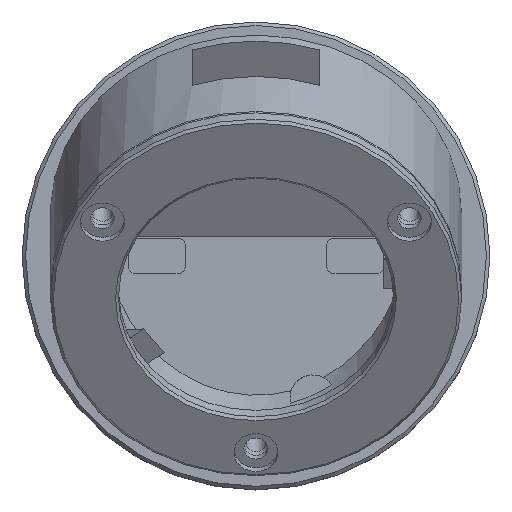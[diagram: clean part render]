
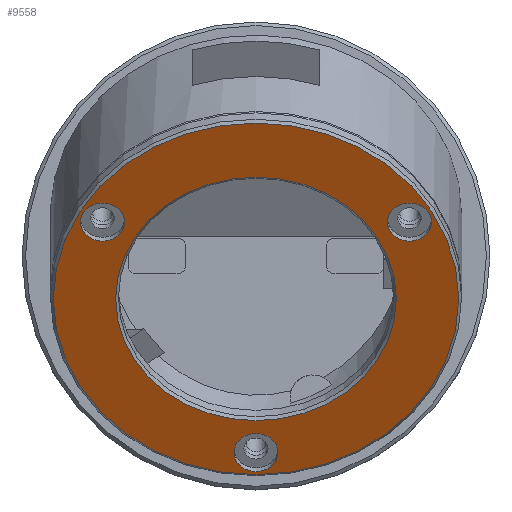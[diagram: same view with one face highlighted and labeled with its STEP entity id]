
A CAD part, top view. The second image highlights one B-rep face of the part: STEP entity #9558.
In plain terms, the highlighted planar face has unit normal (0, -0.5, 0.866).
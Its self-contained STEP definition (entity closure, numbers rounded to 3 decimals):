
#9336 = CONICAL_SURFACE('',#9337,29.,0.785);
#9337 = AXIS2_PLACEMENT_3D('',#9338,#9339,#9340);
#9338 = CARTESIAN_POINT('',(0.,-0.9,34.759));
#9339 = DIRECTION('',(-0.,0.5,-0.866));
#9340 = DIRECTION('',(1.,0.,0.));
#9380 = VERTEX_POINT('',#9381);
#9381 = CARTESIAN_POINT('',(28.6,-1.1,35.105));
#9404 = EDGE_CURVE('',#9380,#9380,#9405,.T.);
#9405 = SURFACE_CURVE('',#9406,(#9411,#9418),.PCURVE_S1.);
#9406 = CIRCLE('',#9407,28.6);
#9407 = AXIS2_PLACEMENT_3D('',#9408,#9409,#9410);
#9408 = CARTESIAN_POINT('',(0.,-1.1,35.105));
#9409 = DIRECTION('',(0.,-0.5,0.866));
#9410 = DIRECTION('',(1.,0.,0.));
#9411 = PCURVE('',#9336,#9412);
#9412 = DEFINITIONAL_REPRESENTATION('',(#9413),#9417);
#9413 = LINE('',#9414,#9415);
#9414 = CARTESIAN_POINT('',(-0.,-0.4));
#9415 = VECTOR('',#9416,1.);
#9416 = DIRECTION('',(-1.,-0.));
#9417 = ( GEOMETRIC_REPRESENTATION_CONTEXT(2) 
PARAMETRIC_REPRESENTATION_CONTEXT() REPRESENTATION_CONTEXT('2D SPACE',''
  ) );
#9418 = PCURVE('',#9419,#9424);
#9419 = PLANE('',#9420);
#9420 = AXIS2_PLACEMENT_3D('',#9421,#9422,#9423);
#9421 = CARTESIAN_POINT('',(0.,-1.1,35.105));
#9422 = DIRECTION('',(0.,-0.5,0.866));
#9423 = DIRECTION('',(1.,0.,0.));
#9424 = DEFINITIONAL_REPRESENTATION('',(#9425),#9429);
#9425 = CIRCLE('',#9426,28.6);
#9426 = AXIS2_PLACEMENT_2D('',#9427,#9428);
#9427 = CARTESIAN_POINT('',(0.,0.));
#9428 = DIRECTION('',(1.,0.));
#9429 = ( GEOMETRIC_REPRESENTATION_CONTEXT(2) 
PARAMETRIC_REPRESENTATION_CONTEXT() REPRESENTATION_CONTEXT('2D SPACE',''
  ) );
#9558 = ADVANCED_FACE('',(#9559,#9562,#9597,#9632,#9663),#9419,.T.);
#9559 = FACE_BOUND('',#9560,.T.);
#9560 = EDGE_LOOP('',(#9561));
#9561 = ORIENTED_EDGE('',*,*,#9404,.T.);
#9562 = FACE_BOUND('',#9563,.T.);
#9563 = EDGE_LOOP('',(#9564));
#9564 = ORIENTED_EDGE('',*,*,#9565,.T.);
#9565 = EDGE_CURVE('',#9566,#9566,#9568,.T.);
#9566 = VERTEX_POINT('',#9567);
#9567 = CARTESIAN_POINT('',(3.1,-22.751,22.605));
#9568 = SURFACE_CURVE('',#9569,(#9574,#9585),.PCURVE_S1.);
#9569 = CIRCLE('',#9570,3.1);
#9570 = AXIS2_PLACEMENT_3D('',#9571,#9572,#9573);
#9571 = CARTESIAN_POINT('',(0.,-22.751,
    22.605));
#9572 = DIRECTION('',(0.,0.5,-0.866));
#9573 = DIRECTION('',(1.,0.,0.));
#9574 = PCURVE('',#9419,#9575);
#9575 = DEFINITIONAL_REPRESENTATION('',(#9576),#9584);
#9576 = ( BOUNDED_CURVE() B_SPLINE_CURVE(2,(#9577,#9578,#9579,#9580,
#9581,#9582,#9583),.UNSPECIFIED.,.T.,.F.) B_SPLINE_CURVE_WITH_KNOTS((1,2
    ,2,2,2,1),(-2.094,0.,2.094,4.189,
6.283,8.378),.UNSPECIFIED.) CURVE() 
GEOMETRIC_REPRESENTATION_ITEM() RATIONAL_B_SPLINE_CURVE((1.,0.5,1.,0.5,
1.,0.5,1.)) REPRESENTATION_ITEM('') );
#9577 = CARTESIAN_POINT('',(3.1,-25.));
#9578 = CARTESIAN_POINT('',(3.1,-30.369));
#9579 = CARTESIAN_POINT('',(-1.55,-27.685));
#9580 = CARTESIAN_POINT('',(-6.2,-25.));
#9581 = CARTESIAN_POINT('',(-1.55,-22.315));
#9582 = CARTESIAN_POINT('',(3.1,-19.631));
#9583 = CARTESIAN_POINT('',(3.1,-25.));
#9584 = ( GEOMETRIC_REPRESENTATION_CONTEXT(2) 
PARAMETRIC_REPRESENTATION_CONTEXT() REPRESENTATION_CONTEXT('2D SPACE',''
  ) );
#9585 = PCURVE('',#9586,#9591);
#9586 = CYLINDRICAL_SURFACE('',#9587,3.1);
#9587 = AXIS2_PLACEMENT_3D('',#9588,#9589,#9590);
#9588 = CARTESIAN_POINT('',(0.,-22.201,
    21.653));
#9589 = DIRECTION('',(-0.,0.5,-0.866));
#9590 = DIRECTION('',(1.,0.,0.));
#9591 = DEFINITIONAL_REPRESENTATION('',(#9592),#9596);
#9592 = LINE('',#9593,#9594);
#9593 = CARTESIAN_POINT('',(-6.283,-1.1));
#9594 = VECTOR('',#9595,1.);
#9595 = DIRECTION('',(1.,-0.));
#9596 = ( GEOMETRIC_REPRESENTATION_CONTEXT(2) 
PARAMETRIC_REPRESENTATION_CONTEXT() REPRESENTATION_CONTEXT('2D SPACE',''
  ) );
#9597 = FACE_BOUND('',#9598,.T.);
#9598 = EDGE_LOOP('',(#9599));
#9599 = ORIENTED_EDGE('',*,*,#9600,.T.);
#9600 = EDGE_CURVE('',#9601,#9601,#9603,.T.);
#9601 = VERTEX_POINT('',#9602);
#9602 = CARTESIAN_POINT('',(-18.551,9.725,
    41.355));
#9603 = SURFACE_CURVE('',#9604,(#9609,#9620),.PCURVE_S1.);
#9604 = CIRCLE('',#9605,3.1);
#9605 = AXIS2_PLACEMENT_3D('',#9606,#9607,#9608);
#9606 = CARTESIAN_POINT('',(-21.651,9.725,
    41.355));
#9607 = DIRECTION('',(0.,0.5,-0.866));
#9608 = DIRECTION('',(1.,0.,0.));
#9609 = PCURVE('',#9419,#9610);
#9610 = DEFINITIONAL_REPRESENTATION('',(#9611),#9619);
#9611 = ( BOUNDED_CURVE() B_SPLINE_CURVE(2,(#9612,#9613,#9614,#9615,
#9616,#9617,#9618),.UNSPECIFIED.,.T.,.F.) B_SPLINE_CURVE_WITH_KNOTS((1,2
    ,2,2,2,1),(-2.094,0.,2.094,4.189,
6.283,8.378),.UNSPECIFIED.) CURVE() 
GEOMETRIC_REPRESENTATION_ITEM() RATIONAL_B_SPLINE_CURVE((1.,0.5,1.,0.5,
1.,0.5,1.)) REPRESENTATION_ITEM('') );
#9612 = CARTESIAN_POINT('',(-18.551,12.5));
#9613 = CARTESIAN_POINT('',(-18.551,7.131));
#9614 = CARTESIAN_POINT('',(-23.201,9.815));
#9615 = CARTESIAN_POINT('',(-27.851,12.5));
#9616 = CARTESIAN_POINT('',(-23.201,15.185));
#9617 = CARTESIAN_POINT('',(-18.551,17.869));
#9618 = CARTESIAN_POINT('',(-18.551,12.5));
#9619 = ( GEOMETRIC_REPRESENTATION_CONTEXT(2) 
PARAMETRIC_REPRESENTATION_CONTEXT() REPRESENTATION_CONTEXT('2D SPACE',''
  ) );
#9620 = PCURVE('',#9621,#9626);
#9621 = CYLINDRICAL_SURFACE('',#9622,3.1);
#9622 = AXIS2_PLACEMENT_3D('',#9623,#9624,#9625);
#9623 = CARTESIAN_POINT('',(-21.651,10.275,
    40.403));
#9624 = DIRECTION('',(-0.,0.5,-0.866));
#9625 = DIRECTION('',(1.,0.,0.));
#9626 = DEFINITIONAL_REPRESENTATION('',(#9627),#9631);
#9627 = LINE('',#9628,#9629);
#9628 = CARTESIAN_POINT('',(-6.283,-1.1));
#9629 = VECTOR('',#9630,1.);
#9630 = DIRECTION('',(1.,-0.));
#9631 = ( GEOMETRIC_REPRESENTATION_CONTEXT(2) 
PARAMETRIC_REPRESENTATION_CONTEXT() REPRESENTATION_CONTEXT('2D SPACE',''
  ) );
#9632 = FACE_BOUND('',#9633,.T.);
#9633 = EDGE_LOOP('',(#9634));
#9634 = ORIENTED_EDGE('',*,*,#9635,.F.);
#9635 = EDGE_CURVE('',#9636,#9636,#9638,.T.);
#9636 = VERTEX_POINT('',#9637);
#9637 = CARTESIAN_POINT('',(19.8,-1.1,35.105));
#9638 = SURFACE_CURVE('',#9639,(#9644,#9651),.PCURVE_S1.);
#9639 = CIRCLE('',#9640,19.8);
#9640 = AXIS2_PLACEMENT_3D('',#9641,#9642,#9643);
#9641 = CARTESIAN_POINT('',(0.,-1.1,35.105));
#9642 = DIRECTION('',(0.,-0.5,0.866));
#9643 = DIRECTION('',(1.,0.,0.));
#9644 = PCURVE('',#9419,#9645);
#9645 = DEFINITIONAL_REPRESENTATION('',(#9646),#9650);
#9646 = CIRCLE('',#9647,19.8);
#9647 = AXIS2_PLACEMENT_2D('',#9648,#9649);
#9648 = CARTESIAN_POINT('',(0.,0.));
#9649 = DIRECTION('',(1.,0.));
#9650 = ( GEOMETRIC_REPRESENTATION_CONTEXT(2) 
PARAMETRIC_REPRESENTATION_CONTEXT() REPRESENTATION_CONTEXT('2D SPACE',''
  ) );
#9651 = PCURVE('',#9652,#9657);
#9652 = CONICAL_SURFACE('',#9653,19.4,0.785);
#9653 = AXIS2_PLACEMENT_3D('',#9654,#9655,#9656);
#9654 = CARTESIAN_POINT('',(0.,-0.9,34.759));
#9655 = DIRECTION('',(0.,-0.5,0.866));
#9656 = DIRECTION('',(1.,0.,0.));
#9657 = DEFINITIONAL_REPRESENTATION('',(#9658),#9662);
#9658 = LINE('',#9659,#9660);
#9659 = CARTESIAN_POINT('',(0.,0.4));
#9660 = VECTOR('',#9661,1.);
#9661 = DIRECTION('',(1.,0.));
#9662 = ( GEOMETRIC_REPRESENTATION_CONTEXT(2) 
PARAMETRIC_REPRESENTATION_CONTEXT() REPRESENTATION_CONTEXT('2D SPACE',''
  ) );
#9663 = FACE_BOUND('',#9664,.T.);
#9664 = EDGE_LOOP('',(#9665));
#9665 = ORIENTED_EDGE('',*,*,#9666,.T.);
#9666 = EDGE_CURVE('',#9667,#9667,#9669,.T.);
#9667 = VERTEX_POINT('',#9668);
#9668 = CARTESIAN_POINT('',(24.751,9.725,
    41.355));
#9669 = SURFACE_CURVE('',#9670,(#9675,#9686),.PCURVE_S1.);
#9670 = CIRCLE('',#9671,3.1);
#9671 = AXIS2_PLACEMENT_3D('',#9672,#9673,#9674);
#9672 = CARTESIAN_POINT('',(21.651,9.725,
    41.355));
#9673 = DIRECTION('',(0.,0.5,-0.866));
#9674 = DIRECTION('',(1.,0.,0.));
#9675 = PCURVE('',#9419,#9676);
#9676 = DEFINITIONAL_REPRESENTATION('',(#9677),#9685);
#9677 = ( BOUNDED_CURVE() B_SPLINE_CURVE(2,(#9678,#9679,#9680,#9681,
#9682,#9683,#9684),.UNSPECIFIED.,.T.,.F.) B_SPLINE_CURVE_WITH_KNOTS((1,2
    ,2,2,2,1),(-2.094,0.,2.094,4.189,
6.283,8.378),.UNSPECIFIED.) CURVE() 
GEOMETRIC_REPRESENTATION_ITEM() RATIONAL_B_SPLINE_CURVE((1.,0.5,1.,0.5,
1.,0.5,1.)) REPRESENTATION_ITEM('') );
#9678 = CARTESIAN_POINT('',(24.751,12.5));
#9679 = CARTESIAN_POINT('',(24.751,7.131));
#9680 = CARTESIAN_POINT('',(20.101,9.815));
#9681 = CARTESIAN_POINT('',(15.451,12.5));
#9682 = CARTESIAN_POINT('',(20.101,15.185));
#9683 = CARTESIAN_POINT('',(24.751,17.869));
#9684 = CARTESIAN_POINT('',(24.751,12.5));
#9685 = ( GEOMETRIC_REPRESENTATION_CONTEXT(2) 
PARAMETRIC_REPRESENTATION_CONTEXT() REPRESENTATION_CONTEXT('2D SPACE',''
  ) );
#9686 = PCURVE('',#9687,#9692);
#9687 = CYLINDRICAL_SURFACE('',#9688,3.1);
#9688 = AXIS2_PLACEMENT_3D('',#9689,#9690,#9691);
#9689 = CARTESIAN_POINT('',(21.651,10.275,
    40.403));
#9690 = DIRECTION('',(-0.,0.5,-0.866));
#9691 = DIRECTION('',(1.,0.,0.));
#9692 = DEFINITIONAL_REPRESENTATION('',(#9693),#9697);
#9693 = LINE('',#9694,#9695);
#9694 = CARTESIAN_POINT('',(-6.283,-1.1));
#9695 = VECTOR('',#9696,1.);
#9696 = DIRECTION('',(1.,-0.));
#9697 = ( GEOMETRIC_REPRESENTATION_CONTEXT(2) 
PARAMETRIC_REPRESENTATION_CONTEXT() REPRESENTATION_CONTEXT('2D SPACE',''
  ) );
